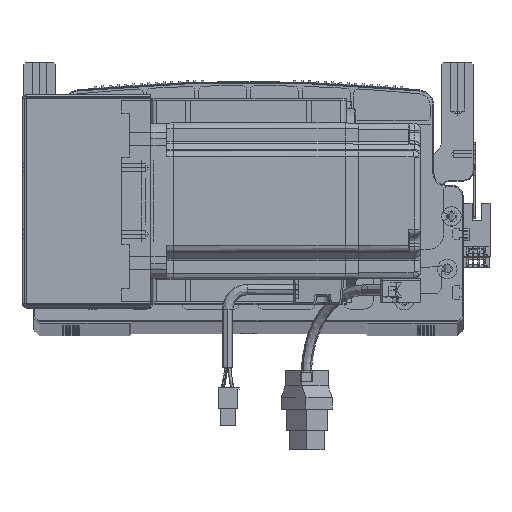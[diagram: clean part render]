
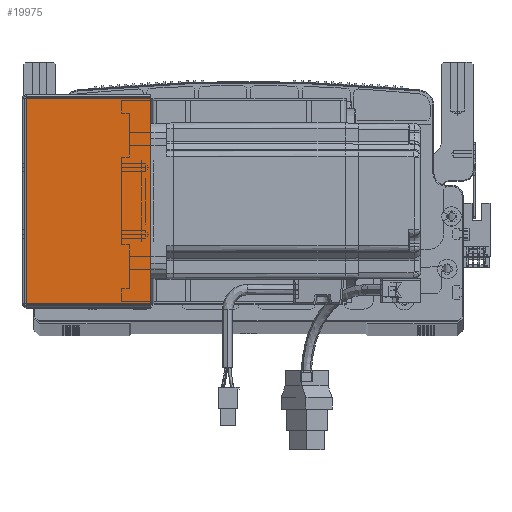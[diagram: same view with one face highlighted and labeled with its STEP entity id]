
A CAD part, top view. The second image highlights one B-rep face of the part: STEP entity #19975.
In plain terms, the highlighted planar face has unit normal (0, 0, 1) as drawn and (0, 0, -1) by its records, which use the part's own axes.
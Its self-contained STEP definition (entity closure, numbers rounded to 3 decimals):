
#372 = DIRECTION ( 'NONE',  ( 0., -1., 0. ) ) ;
#2135 = EDGE_CURVE ( 'NONE', #22472, #73318, #54389, .T. ) ;
#5922 = DIRECTION ( 'NONE',  ( 1., 0., 0. ) ) ;
#5988 = ORIENTED_EDGE ( 'NONE', *, *, #2135, .T. ) ;
#6453 = CARTESIAN_POINT ( 'NONE',  ( 64.5, 105.293, -205.5 ) ) ;
#8189 = DIRECTION ( 'NONE',  ( 0., 0., 1. ) ) ;
#13748 = EDGE_CURVE ( 'NONE', #84689, #18310, #20264, .T. ) ;
#16398 = DIRECTION ( 'NONE',  ( 1., 0., 0. ) ) ;
#18182 = FACE_OUTER_BOUND ( 'NONE', #58240, .T. ) ;
#18310 = VERTEX_POINT ( 'NONE', #81140 ) ;
#18358 = ORIENTED_EDGE ( 'NONE', *, *, #90351, .F. ) ;
#19975 = ADVANCED_FACE ( 'NONE', ( #18182 ), #55458, .F. ) ;
#20264 = LINE ( 'NONE', #87058, #101863 ) ;
#21135 = CARTESIAN_POINT ( 'NONE',  ( 64.5, 0.707, -205.5 ) ) ;
#21626 = DIRECTION ( 'NONE',  ( 1., 0., 0. ) ) ;
#22472 = VERTEX_POINT ( 'NONE', #6453 ) ;
#23113 = CARTESIAN_POINT ( 'NONE',  ( 0., 105.293, -205.5 ) ) ;
#25928 = CARTESIAN_POINT ( 'NONE',  ( 64.5, 0., -205.5 ) ) ;
#36410 = EDGE_CURVE ( 'NONE', #84689, #22472, #65207, .T. ) ;
#49434 = VECTOR ( 'NONE', #89517, 1000. ) ;
#52171 = ORIENTED_EDGE ( 'NONE', *, *, #13748, .F. ) ;
#54389 = LINE ( 'NONE', #25928, #49434 ) ;
#55458 = PLANE ( 'NONE',  #70256 ) ;
#56821 = CARTESIAN_POINT ( 'NONE',  ( 0., 0., -205.5 ) ) ;
#58240 = EDGE_LOOP ( 'NONE', ( #52171, #76565, #5988, #18358 ) ) ;
#65207 = LINE ( 'NONE', #23113, #81309 ) ;
#70256 = AXIS2_PLACEMENT_3D ( 'NONE', #56821, #8189, #16398 ) ;
#73176 = LINE ( 'NONE', #99778, #89305 ) ;
#73318 = VERTEX_POINT ( 'NONE', #21135 ) ;
#76565 = ORIENTED_EDGE ( 'NONE', *, *, #36410, .T. ) ;
#81140 = CARTESIAN_POINT ( 'NONE',  ( 0.737, 0.707, -205.5 ) ) ;
#81309 = VECTOR ( 'NONE', #5922, 1000. ) ;
#84689 = VERTEX_POINT ( 'NONE', #92859 ) ;
#87058 = CARTESIAN_POINT ( 'NONE',  ( 0.737, 0., -205.5 ) ) ;
#89305 = VECTOR ( 'NONE', #21626, 1000. ) ;
#89517 = DIRECTION ( 'NONE',  ( 0., -1., 0. ) ) ;
#90351 = EDGE_CURVE ( 'NONE', #18310, #73318, #73176, .T. ) ;
#92859 = CARTESIAN_POINT ( 'NONE',  ( 0.737, 105.293, -205.5 ) ) ;
#99778 = CARTESIAN_POINT ( 'NONE',  ( 0., 0.707, -205.5 ) ) ;
#101863 = VECTOR ( 'NONE', #372, 1000. ) ;
